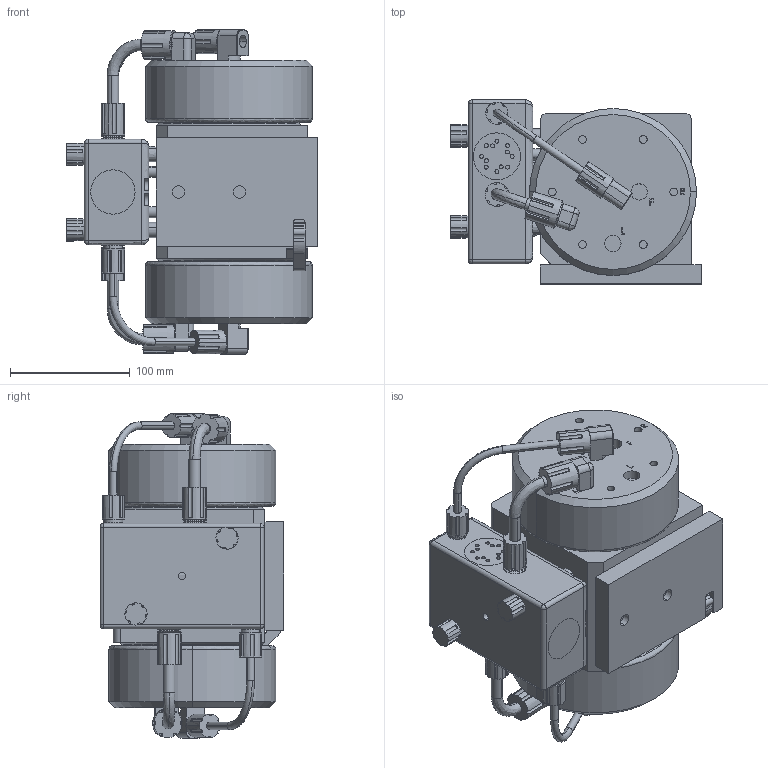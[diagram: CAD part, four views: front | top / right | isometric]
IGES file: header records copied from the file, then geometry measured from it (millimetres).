
Start section: SolidWorks IGES file using analytic representation for surfaces
Global section: file name: S:\Product Visuals\FILES FOR PUBLICATION\SOLID MODELS FOR PUBLICATION\psa060\psa060-t-fitting.IGS; native system: SolidWorks 2012; preprocessor: SolidWorks 2012; author: rachel.dressel; date: 121126.110608; units: inch
Bounding box: 209.8 x 153.91 x 271.27 mm (x, y, z)
Volume: 4312162.3 mm3; surface area: 291108.8 mm2
Topology: 2 solids, 2 shells, 1504 faces, 3916 edges, 2580 vertices
Faces by surface type: plane 880, revolution 461, bspline 163
